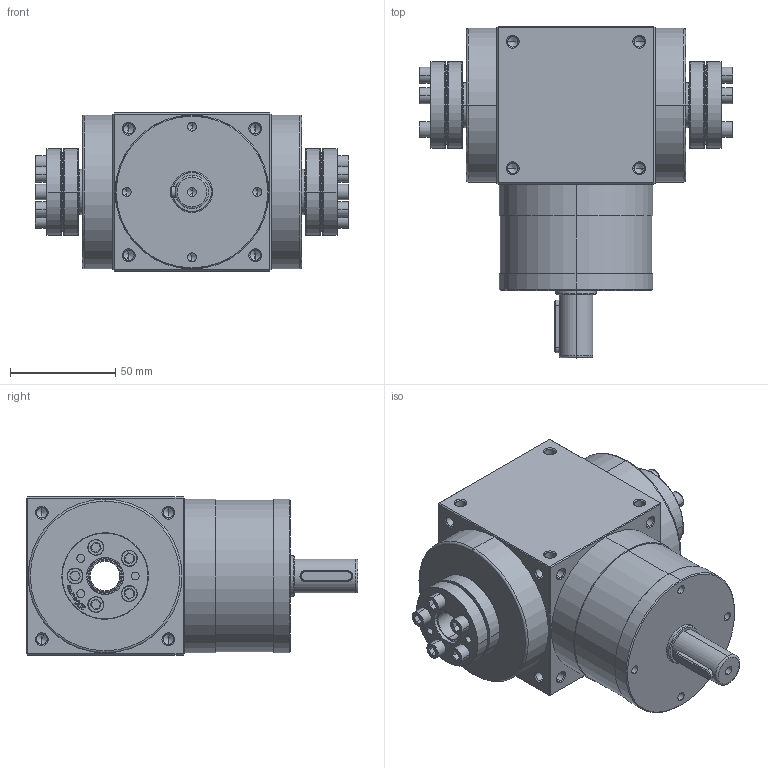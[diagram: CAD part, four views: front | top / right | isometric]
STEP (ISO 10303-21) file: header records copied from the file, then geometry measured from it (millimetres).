
FILE_DESCRIPTION (( 'STEP AP214' ), '1' );
FILE_NAME ('AT075-C-001.STEP', '2020-04-21T01:14:04', ( 'User' ), ( 'Far123' ), 'SwSTEP 2.0', 'SolidWorks 2015', '' );
FILE_SCHEMA (( 'AUTOMOTIVE_DESIGN' ));
Length unit declared in the file: millimetre
Products named in the file (3): AT075-C-L1; 83_16x41; AT075-C-001
Assembly tree (3 placements, depth 2):
  AT075-C-001
    AT075-C-L1
    83_16x41  x2
Bounding box: 149 x 157.5 x 75 mm (x, y, z)
Volume: 770389 mm3; surface area: 88621.1 mm2
Topology: 19 solids, 19 shells, 994 faces, 2406 edges, 1439 vertices
Faces by surface type: cylinder 426, plane 242, cone 240, bspline 80, torus 6
Entity records: 21347 total; most frequent: CARTESIAN_POINT 5586, DIRECTION 3064, ORIENTED_EDGE 3060, EDGE_CURVE 1530, AXIS2_PLACEMENT_3D 1179, VERTEX_POINT 931, EDGE_LOOP 743, VECTOR 706
